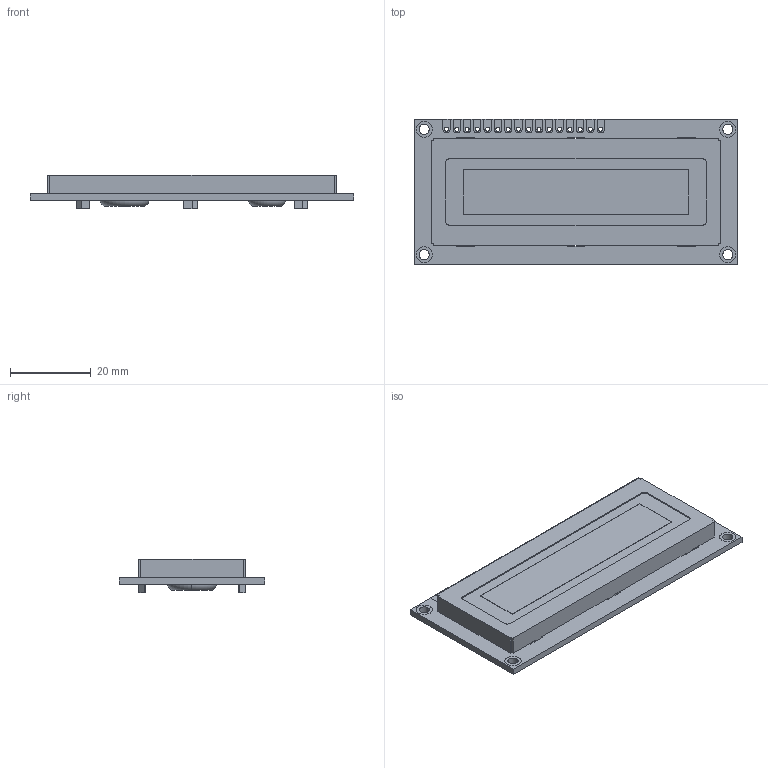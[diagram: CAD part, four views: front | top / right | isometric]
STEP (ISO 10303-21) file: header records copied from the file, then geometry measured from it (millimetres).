
FILE_DESCRIPTION (( 'STEP AP214' ), '1' );
FILE_NAME ('NHD-0216KZ-FSB-FBW.STEP', '2018-04-16T16:29:16', ( '' ), ( '' ), 'SwSTEP 2.0', 'SolidWorks 2018', '' );
FILE_SCHEMA (( 'AUTOMOTIVE_DESIGN' ));
Length unit declared in the file: millimetre
Products named in the file (1): NHD-0216KZ-FSB-FBW
Bounding box: 80 x 36 x 8.3 mm (x, y, z)
Volume: 13156.2 mm3; surface area: 7420 mm2
Topology: 1 solids, 1 shells, 339 faces, 960 edges, 630 vertices
Faces by surface type: plane 219, cylinder 116, torus 4
Entity records: 14825 total; most frequent: CARTESIAN_POINT 1930, ORIENTED_EDGE 1920, DIRECTION 1884, EDGE_CURVE 960, VECTOR 716, LINE 716, VERTEX_POINT 630, AXIS2_PLACEMENT_3D 584
